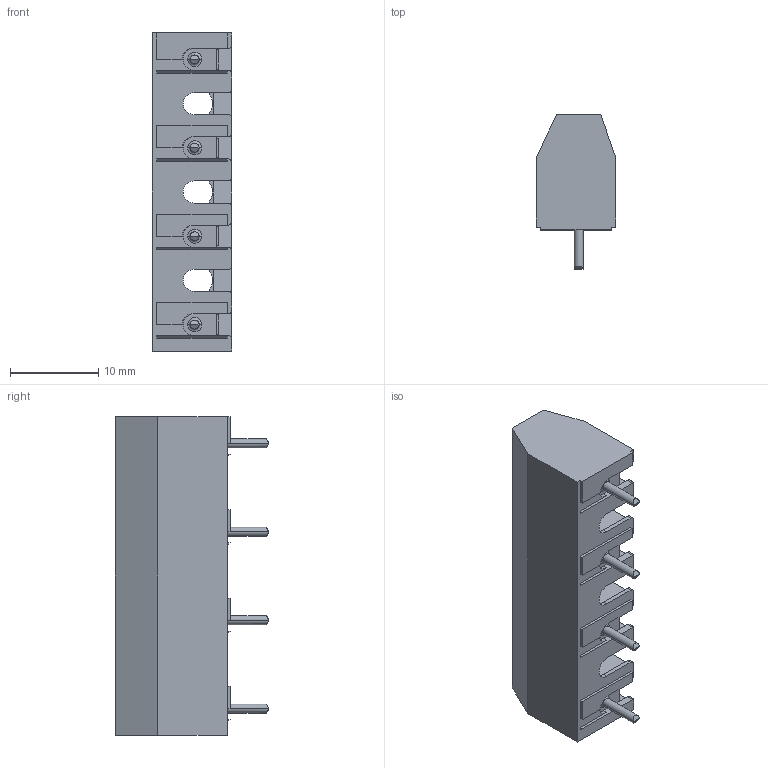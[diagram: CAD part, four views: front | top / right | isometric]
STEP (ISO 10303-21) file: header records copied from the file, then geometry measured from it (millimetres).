
FILE_DESCRIPTION (( 'STEP AP203' ), '1' );
FILE_NAME ('972-04.STEP', '2019-01-27T17:52:24', ( '' ), ( '' ), 'SwSTEP 2.0', 'SolidWorks 2016', '' );
FILE_SCHEMA (( 'CONFIG_CONTROL_DESIGN' ));
Length unit declared in the file: millimetre
Products named in the file (1): 972-04
Bounding box: 9 x 17.4 x 36 mm (x, y, z)
Volume: 2674.9 mm3; surface area: 2706.9 mm2
Topology: 1 solids, 1 shells, 307 faces, 855 edges, 558 vertices
Faces by surface type: plane 200, cylinder 83, cone 16, torus 8
Entity records: 9932 total; most frequent: CARTESIAN_POINT 1817, ORIENTED_EDGE 1710, DIRECTION 1661, EDGE_CURVE 855, VECTOR 601, LINE 601, VERTEX_POINT 558, AXIS2_PLACEMENT_3D 530
